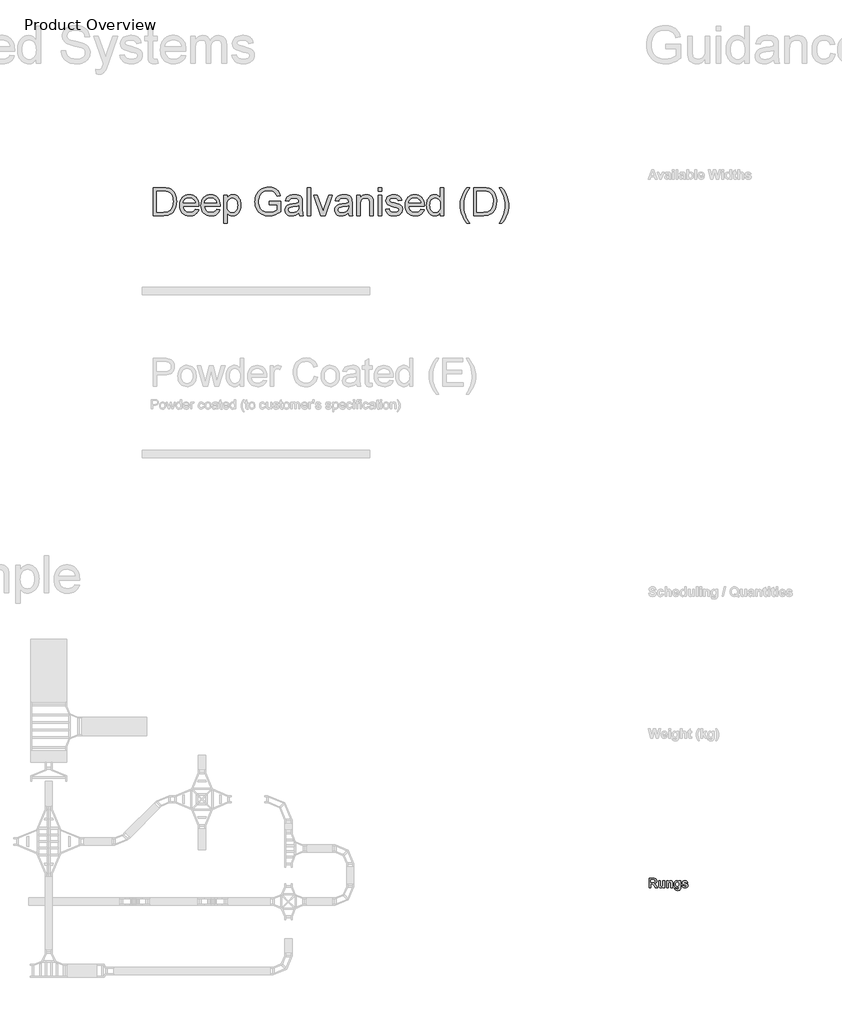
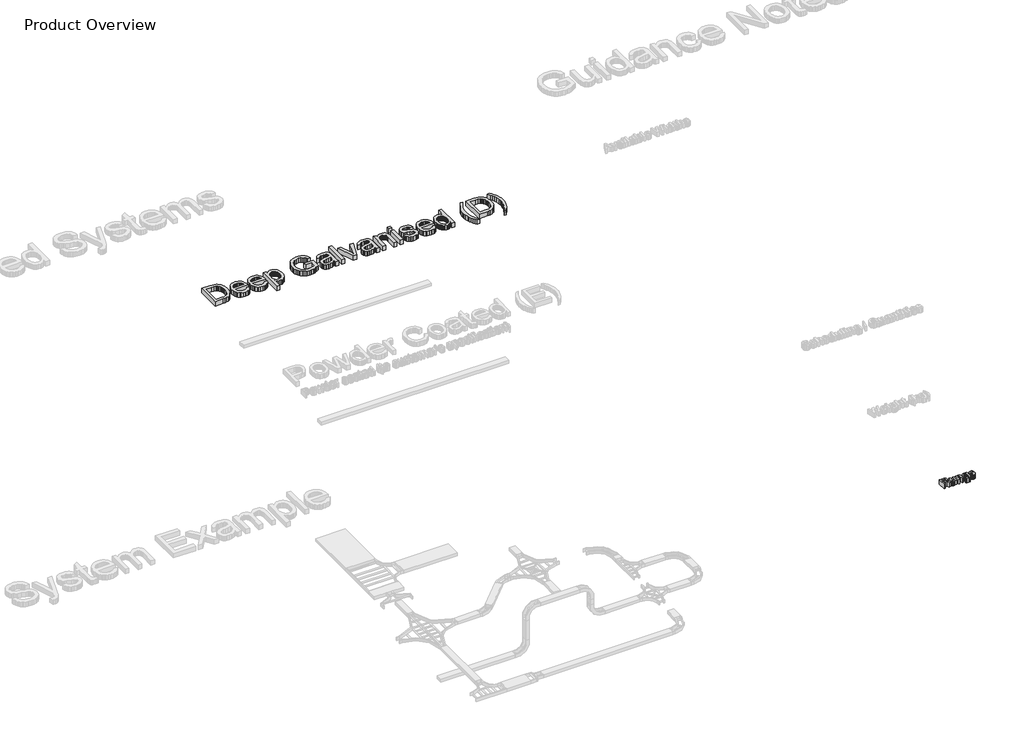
# One storey, part 8 of 12: 2 proxies.
"""IFC4 building model written with IfcOpenShell, lengths in millimetres."""

from ifc_helpers import new_model, si_unit, origin, origin_with_axes, place, context, project, spatial, polyline, outline, extrude, element, save

model = new_model("IFC4")

# Units and contexts
model_context = context("Model", 3, world=origin())
ifc_project = project(units=[si_unit("LENGTHUNIT", "METRE", prefix="MILLI")], contexts=[model_context])

# Site, building, storey
site = spatial("IfcSite", under=ifc_project)
building = spatial("IfcBuilding", under=site)
storey = spatial("IfcBuildingStorey", under=building, Name="Product Overview", Elevation=0.0)

# Proxies
placement = place(None, origin())
element("IfcBuildingElementProxy", 1, Name="250.0 BOLD", ObjectType="250.0 BOLD", at=placement, inside=storey, context=model_context, shape_type="SweptSolid", body=[
    extrude(outline(polyline([(8227.1392742, -30573.8362158), (8227.1392742, -30323.8362158), (8332.2980044, -30323.8362158), (8366.5551968, -30325.525824), (8389.9616949, -30330.5946484), (8406.1447306, -30339.9882496), (8418.7315361, -30354.652188), (8426.823054, -30373.2068755), (8429.5202266, -30394.2727238), (8425.6217271, -30420.0818755), (8413.9262286, -30440.9617119), (8394.4647331, -30455.9666722), (8367.2682425, -30464.151196), (8392.2558417, -30484.9845293), (8418.7935401, -30525.3491127), (8449.3614965, -30573.8362158), (8393.7439369, -30573.8362158), (8357.5336195, -30516.7305611), (8329.1048, -30482.8453924), (8312.8597603, -30473.2657793), (8285.6710203, -30470.6616127), (8274.7583218, -30470.6616127), (8274.7583218, -30573.8362158), (8227.1392742, -30573.8362158)]), holes=[polyline([(8274.7583218, -30427.010819), (8314.0068338, -30427.010819), (8361.6568834, -30424.1276345), (8376.5378357, -30414.2069996), (8381.901179, -30396.6288746), (8380.1340659, -30385.9254395), (8374.8327266, -30377.5006503), (8366.307181, -30371.5560199), (8354.8674488, -30368.2930611), (8316.1769726, -30367.4870095), (8274.7583218, -30367.4870095), (8274.7583218, -30427.010819)])]), origin_with_axes(), (0.0, 0.0, 1.0), 150.0),
    extrude(outline(polyline([(8592.2186393, -30573.8362158), (8592.2186393, -30547.0505015), (8581.2516874, -30559.8465705), (8567.3240461, -30569.588944), (8551.4742817, -30575.7505883), (8534.7409607, -30577.8044698), (8518.2014022, -30575.7893408), (8503.4289568, -30569.7439539), (8491.4621909, -30560.0480834), (8483.3396711, -30547.0815035), (8478.6893734, -30529.6816399), (8477.1392742, -30506.6859182), (8477.1392742, -30391.2965333), (8524.7583218, -30391.2965333), (8524.7583218, -30475.6839341), (8527.3314865, -30523.1479718), (8536.7560897, -30536.9748567), (8554.1482028, -30542.0901841), (8565.5491825, -30540.385075), (8575.6945818, -30535.2697476), (8583.7085947, -30527.620008), (8588.7154151, -30518.3116623), (8592.2186393, -30468.7394896), (8592.2186393, -30391.2965333), (8639.8376869, -30391.2965333), (8639.8376869, -30573.8362158), (8592.2186393, -30573.8362158)])), origin_with_axes(), (0.0, 0.0, 1.0), 150.0),
    extrude(outline(polyline([(8850.1551472, -30573.8362158), (8802.5360996, -30573.8362158), (8802.5360996, -30480.0242119), (8799.5599092, -30441.4577436), (8789.8252861, -30427.8788746), (8773.6422504, -30423.042565), (8762.1172628, -30424.7709256), (8751.8478556, -30429.9560075), (8743.7253357, -30438.0010224), (8738.6410103, -30448.3091821), (8735.0757822, -30490.5648865), (8735.0757822, -30573.8362158), (8687.4567345, -30573.8362158), (8687.4567345, -30391.2965333), (8735.0757822, -30391.2965333), (8735.0757822, -30417.5862158), (8747.1239282, -30404.3483686), (8760.6369181, -30394.8927634), (8775.6147517, -30389.2194003), (8792.057429, -30387.3282793), (8819.7111988, -30393.0946484), (8838.6844131, -30407.7895888), (8847.6439865, -30428.0338845), (8850.1551472, -30460.4929619), (8850.1551472, -30573.8362158)])), origin_with_axes(), (0.0, 0.0, 1.0), 150.0),
    extrude(outline(polyline([(8893.8059409, -30585.7409777), (8949.3614965, -30593.6774857), (8955.2518734, -30605.0862158), (8975.4031631, -30609.5505015), (8990.8111492, -30608.1399113), (9001.8168536, -30603.9081404), (9010.745425, -30591.6933587), (9012.8535599, -30569.495938), (9012.8535599, -30542.8962357), (9000.572899, -30556.432477), (8987.292424, -30566.1012208), (8973.0121351, -30571.9024671), (8957.7320322, -30573.8362158), (8941.041339, -30571.8947166), (8926.1875133, -30566.0702188), (8913.1705552, -30556.3627225), (8901.9904647, -30542.7722277), (8889.8996909, -30515.2114638), (8885.869433, -30481.636315), (8891.1475208, -30441.1709753), (8897.7451305, -30425.0015029), (8906.9817842, -30411.5408289), (8918.1831885, -30400.9478385), (8930.6750505, -30393.3814167), (8944.4573701, -30388.8415637), (8959.5301472, -30387.3282793), (8975.0001373, -30389.1225191), (8989.0440361, -30394.5052386), (9001.6618437, -30403.4764378), (9012.8535599, -30416.0361166), (9012.8535599, -30391.2965333), (9060.4726076, -30391.2965333), (9060.4726076, -30553.4369103), (9059.1782747, -30581.3464465), (9055.2952762, -30601.2109678), (9049.0793784, -30615.3401221), (9040.7863476, -30626.0435571), (9029.8891502, -30634.0653205), (9015.8607524, -30640.1494599), (8976.3952266, -30645.2647873), (8937.8752613, -30641.4515432), (8912.4691353, -30630.0118111), (8898.3322306, -30612.7127039), (8893.619929, -30591.3213349), (8893.8059409, -30585.7409777)]), holes=[polyline([(8933.4884806, -30479.8382), (8936.2399067, -30506.0348765), (8944.4941849, -30524.1090333), (8956.7942221, -30534.6187059), (8971.682925, -30538.1219301), (8987.6411964, -30534.5257), (9000.9177961, -30523.7370095), (9009.869619, -30505.8953676), (9012.8535599, -30481.1402833), (9009.9936269, -30455.4318879), (9001.4138278, -30437.3344797), (8988.4627489, -30426.6155437), (8972.4889766, -30423.042565), (8956.995735, -30426.5457892), (8944.4941849, -30437.0554619), (8936.2399067, -30454.7575948), (8933.4884806, -30479.8382)])]), origin_with_axes(), (0.0, 0.0, 1.0), 150.0),
    extrude(outline(polyline([(9088.2503853, -30522.2489142), (9135.869433, -30514.3124063), (9140.4034731, -30526.3101742), (9148.0532127, -30535.0217317), (9159.0821686, -30540.323071), (9173.7538576, -30542.0901841), (9189.6733764, -30540.4005759), (9201.0976076, -30535.3317515), (9205.7479052, -30529.8133984), (9207.2980044, -30522.682942), (9204.0117941, -30513.7543706), (9188.448798, -30507.4919698), (9142.4573546, -30495.30819), (9117.0822306, -30484.1784777), (9101.4107276, -30466.5538498), (9096.1868933, -30443.1938547), (9100.66668, -30421.4459628), (9114.1060401, -30403.4493111), (9136.9700034, -30391.3585373), (9169.7235996, -30387.3282793), (9200.9580986, -30390.5834877), (9222.9850084, -30400.3491127), (9237.6954498, -30416.5011464), (9246.9805441, -30438.9155809), (9199.3614965, -30446.8520888), (9190.1849092, -30429.1809579), (9182.0003853, -30424.5771632), (9170.963679, -30423.042565), (9157.4003109, -30424.3446484), (9148.3322306, -30428.2508984), (9143.8059409, -30437.9235174), (9148.3322306, -30446.542069), (9190.463927, -30459.8729222), (9221.0706358, -30469.4990382), (9240.7801472, -30481.1402833), (9251.3828258, -30496.5017664), (9254.917052, -30516.916573), (9249.7939741, -30540.1448096), (9234.4247405, -30559.854321), (9209.010864, -30573.3169326), (9173.7538576, -30577.8044698), (9141.1010178, -30574.0687307), (9116.0591651, -30562.8615134), (9098.4887906, -30545.2368855), (9088.2503853, -30522.2489142)])), origin_with_axes(), (0.0, 0.0, 1.0), 150.0),
])
element("IfcBuildingElementProxy", 2, Name="750mm", ObjectType="750mm", at=placement, inside=storey, context=model_context, shape_type="SweptSolid", body=[
    extrude(outline(polyline([(-4836.3293405, -12853.8362158), (-4836.3293405, -12119.2907613), (-4582.9326786, -12119.2907613), (-4507.2095784, -12121.935914), (-4451.8407041, -12129.8713721), (-4421.4214481, -12138.6026176), (-4393.28868, -12150.270431), (-4367.4423998, -12164.8748122), (-4343.8826075, -12182.4157613), (-4316.6577096, -12208.6879559), (-4293.0867091, -12238.3674658), (-4273.1696059, -12271.4542911), (-4256.9064001, -12307.9484317), (-4244.2746752, -12347.5136395), (-4235.2520145, -12389.8136661), (-4229.8384181, -12434.8485116), (-4228.0338859, -12482.6181761), (-4232.9206935, -12561.4571764), (-4247.5811161, -12630.8363934), (-4269.9079982, -12689.9039981), (-4297.7941842, -12737.8081618), (-4329.8946814, -12775.6248788), (-4364.8644967, -12804.4301434), (-4405.0125347, -12825.7931139), (-4452.6476999, -12841.2829488), (-4507.8596583, -12850.6978991), (-4570.7380763, -12853.8362158), (-4836.3293405, -12853.8362158)]), holes=[polyline([(-4744.5111587, -12762.018034), (-4582.0360166, -12762.018034), (-4514.8312048, -12758.7003849), (-4463.855974, -12748.7474374), (-4425.3891771, -12732.7420219), (-4395.7096672, -12711.2669687), (-4378.7683608, -12692.8573784), (-4363.810919, -12671.5224285), (-4339.8476288, -12620.0764502), (-4324.850958, -12556.7048682), (-4319.8520678, -12481.183517), (-4322.3010757, -12427.8769651), (-4329.6480994, -12381.1160454), (-4341.8931389, -12340.9007577), (-4359.0361942, -12307.2311022), (-4379.6874393, -12279.3449161), (-4402.4570482, -12256.4800368), (-4427.345021, -12238.6364644), (-4454.3513575, -12225.8141988), (-4507.1647453, -12214.785257), (-4584.54667, -12211.1089431), (-4744.5111587, -12211.1089431), (-4744.5111587, -12762.018034)])]), origin_with_axes(), (0.0, 0.0, 1.0), 150.0),
    extrude(outline(polyline([(-3735.587153, -12693.1543976), (-3645.562295, -12704.6316704), (-3659.3652846, -12740.6886883), (-3677.9990404, -12772.4641455), (-3701.4635623, -12799.958042), (-3729.7588504, -12823.1703778), (-3762.5934895, -12841.6079887), (-3799.6760646, -12854.7777109), (-3841.0065755, -12862.6795441), (-3886.5850223, -12865.3134886), (-3943.5566798, -12860.7685334), (-3994.3189534, -12847.1336679), (-4038.8718432, -12824.4088921), (-4077.215349, -12792.5942059), (-4108.0493112, -12752.575063), (-4130.0735699, -12705.2369172), (-4143.2881251, -12650.5797683), (-4147.6929769, -12588.6036164), (-4143.243292, -12524.5259131), (-4129.8942375, -12468.0474197), (-4107.6458133, -12419.1681361), (-4076.4980195, -12377.8880624), (-4038.2553881, -12345.0926523), (-3994.7224513, -12321.6673593), (-3945.8992091, -12307.6121835), (-3891.7856615, -12302.9271249), (-3839.4150006, -12307.6009752), (-3792.0544381, -12321.6225262), (-3749.7039743, -12344.9917778), (-3712.363609, -12377.70873), (-3681.8827074, -12418.8991375), (-3660.1106349, -12467.6887549), (-3647.0473914, -12524.0775821), (-3642.6929769, -12588.0656192), (-3643.230974, -12612.8134886), (-4055.874795, -12612.8134886), (-4050.556469, -12649.4533367), (-4039.9814623, -12681.5426256), (-4024.1497751, -12709.0813552), (-4003.0614072, -12732.0695255), (-3977.8820194, -12750.1933048), (-3949.777272, -12763.1388614), (-3918.747165, -12770.9061954), (-3884.7916984, -12773.4953067), (-3835.9236232, -12768.6981654), (-3794.7668405, -12754.3067414), (-3777.0801839, -12743.2890079), (-3761.3213504, -12729.4243728), (-3747.4903401, -12712.712836), (-3735.587153, -12693.1543976)]), holes=[polyline([(-4055.874795, -12520.9953067), (-3734.5111587, -12520.9953067), (-3739.2298421, -12495.0145273), (-3746.9299264, -12472.4858962), (-3757.6114117, -12453.4094136), (-3771.2742979, -12437.7850795), (-3796.3135823, -12418.9551789), (-3824.8050152, -12405.5052499), (-3856.7485965, -12397.4352925), (-3892.1443263, -12394.7453067), (-3924.42976, -12396.8916912), (-3954.0364161, -12403.3308447), (-3980.9642948, -12414.0627672), (-4005.2133959, -12429.0874587), (-4025.5620176, -12447.7100062), (-4040.788458, -12469.2354967), (-4050.8927172, -12493.6639302), (-4055.874795, -12520.9953067)])]), origin_with_axes(), (0.0, 0.0, 1.0), 150.0),
    extrude(outline(polyline([(-3173.2007894, -12693.1543976), (-3083.1759314, -12704.6316704), (-3096.978921, -12740.6886883), (-3115.6126768, -12772.4641455), (-3139.0771987, -12799.958042), (-3167.3724868, -12823.1703778), (-3200.2071259, -12841.6079887), (-3237.2897009, -12854.7777109), (-3278.6202118, -12862.6795441), (-3324.1986587, -12865.3134886), (-3381.1703162, -12860.7685334), (-3431.9325898, -12847.1336679), (-3476.4854795, -12824.4088921), (-3514.8289854, -12792.5942059), (-3545.6629476, -12752.575063), (-3567.6872063, -12705.2369172), (-3580.9017615, -12650.5797683), (-3585.3066132, -12588.6036164), (-3580.8569284, -12524.5259131), (-3567.5078739, -12468.0474197), (-3545.2594497, -12419.1681361), (-3514.1116558, -12377.8880624), (-3475.8690244, -12345.0926523), (-3432.3360876, -12321.6673593), (-3383.5128455, -12307.6121835), (-3329.3992979, -12302.9271249), (-3277.0286369, -12307.6009752), (-3229.6680745, -12321.6225262), (-3187.3176106, -12344.9917778), (-3149.9772453, -12377.70873), (-3119.4963438, -12418.8991375), (-3097.7242712, -12467.6887549), (-3084.6610277, -12524.0775821), (-3080.3066132, -12588.0656192), (-3080.8446104, -12612.8134886), (-3493.4884314, -12612.8134886), (-3488.1701053, -12649.4533367), (-3477.5950987, -12681.5426256), (-3461.7634114, -12709.0813552), (-3440.6750436, -12732.0695255), (-3415.4956557, -12750.1933048), (-3387.3909083, -12763.1388614), (-3356.3608013, -12770.9061954), (-3322.4053348, -12773.4953067), (-3273.5372595, -12768.6981654), (-3232.3804769, -12754.3067414), (-3214.6938202, -12743.2890079), (-3198.9349868, -12729.4243728), (-3185.1039765, -12712.712836), (-3173.2007894, -12693.1543976)]), holes=[polyline([(-3493.4884314, -12520.9953067), (-3172.124795, -12520.9953067), (-3176.8434784, -12495.0145273), (-3184.5435628, -12472.4858962), (-3195.2250481, -12453.4094136), (-3208.8879342, -12437.7850795), (-3233.9272187, -12418.9551789), (-3262.4186516, -12405.5052499), (-3294.3622329, -12397.4352925), (-3329.7579626, -12394.7453067), (-3362.0433963, -12396.8916912), (-3391.6500525, -12403.3308447), (-3418.5779311, -12414.0627672), (-3442.8270322, -12429.0874587), (-3463.175654, -12447.7100062), (-3478.4020944, -12469.2354967), (-3488.5063535, -12493.6639302), (-3493.4884314, -12520.9953067)])]), origin_with_axes(), (0.0, 0.0, 1.0), 150.0),
    extrude(outline(polyline([(-2988.4884314, -13060.4271249), (-2988.4884314, -12314.4043976), (-2896.6702496, -12314.4043976), (-2896.6702496, -12404.4292556), (-2866.7217411, -12360.0220734), (-2833.1865848, -12328.3026576), (-2814.5808497, -12317.200862), (-2794.0921246, -12309.2710081), (-2771.7204094, -12304.5130957), (-2747.4657041, -12302.9271249), (-2715.4436649, -12305.1463632), (-2685.3718653, -12311.804078), (-2657.2503055, -12322.9002694), (-2631.0789854, -12338.4349374), (-2607.4295269, -12358.0045841), (-2586.8735521, -12381.2057116), (-2569.411061, -12408.0383199), (-2555.0420536, -12438.502409), (-2543.8225711, -12471.5556095), (-2535.8086551, -12506.1555518), (-2531.0003055, -12542.3022359), (-2529.3975223, -12579.9956618), (-2531.2076586, -12620.2950115), (-2536.6380674, -12658.5208305), (-2545.6887488, -12694.6731188), (-2558.3597027, -12728.7518763), (-2574.4772009, -12759.8660454), (-2593.8675152, -12787.1245681), (-2616.5306455, -12810.5274445), (-2642.4665919, -12830.0746746), (-2670.4032152, -12845.4916557), (-2699.0683764, -12856.5037851), (-2728.4620753, -12863.1110627), (-2758.5843121, -12865.3134886), (-2800.7946725, -12859.4179364), (-2838.4768902, -12841.7312797), (-2870.7343032, -12815.0331707), (-2896.6702496, -12782.1032613), (-2896.6702496, -13060.4271249), (-2988.4884314, -13060.4271249)]), holes=[polyline([(-2896.6702496, -12588.424284), (-2894.1876169, -12632.6745503), (-2886.7397187, -12670.7378493), (-2874.3265551, -12702.614181), (-2856.948126, -12728.3035454), (-2836.0278823, -12748.074941), (-2812.9892748, -12762.1973664), (-2787.8323035, -12770.6708216), (-2760.5569683, -12773.4953067), (-2732.8893436, -12770.5699472), (-2707.272833, -12761.7938685), (-2683.7074366, -12747.1670708), (-2662.1931544, -12726.6895539), (-2644.2655199, -12700.0699028), (-2631.4600667, -12667.0167023), (-2623.7767948, -12627.5299525), (-2621.2157041, -12581.6096533), (-2623.7151493, -12537.7404683), (-2631.2134847, -12499.744419), (-2643.7107103, -12467.6215052), (-2661.2068263, -12441.3717272), (-2682.1775072, -12420.9726682), (-2705.0984278, -12406.4019118), (-2729.9695882, -12397.659458), (-2756.7909882, -12394.7453067), (-2783.5283262, -12397.8443945), (-2808.6852975, -12407.1416579), (-2832.2619022, -12422.637097), (-2854.2581402, -12444.3307116), (-2872.8134381, -12471.9310867), (-2886.0672222, -12505.1468071), (-2894.0194927, -12543.9778729), (-2896.6702496, -12588.424284)])]), origin_with_axes(), (0.0, 0.0, 1.0), 150.0),
    extrude(outline(polyline([(-1783.374795, -12566.9043976), (-1783.374795, -12475.0862158), (-1484.9657041, -12475.0862158), (-1484.9657041, -12749.6440993), (-1520.93866, -12776.6448318), (-1557.4832379, -12800.081333), (-1594.5994377, -12819.9536031), (-1632.2872595, -12836.261642), (-1670.5018702, -12848.9718248), (-1709.1984367, -12858.0505269), (-1748.376959, -12863.4977481), (-1788.0374371, -12865.3134886), (-1840.7779711, -12862.427358), (-1891.0414765, -12853.7689662), (-1938.8279533, -12839.3383132), (-1984.1374016, -12819.1353991), (-2025.5071414, -12793.4628471), (-2061.4744932, -12762.6232808), (-2092.0394568, -12726.6167001), (-2117.2020322, -12685.443105), (-2136.855741, -12640.4194678), (-2150.8941043, -12592.8627606), (-2159.3171224, -12542.7729834), (-2162.124795, -12490.1501363), (-2159.3283306, -12437.521685), (-2150.9389374, -12386.6977659), (-2136.9566154, -12337.6783789), (-2117.3813646, -12290.4635241), (-2092.5606415, -12247.1267321), (-2062.8419026, -12209.7415337), (-2028.2251479, -12178.3079288), (-1988.7103774, -12152.8259175), (-1945.1550241, -12133.1329799), (-1898.4165209, -12119.0665958), (-1848.4948678, -12110.6267654), (-1795.3900649, -12107.8134886), (-1756.6206446, -12109.4442924), (-1719.756631, -12114.3367041), (-1684.7980239, -12122.4907235), (-1651.7448234, -12133.9063508), (-1621.3760046, -12148.2305251), (-1594.4705425, -12165.110186), (-1571.0284372, -12184.5453334), (-1551.0496885, -12206.5359672), (-1533.8954249, -12231.5808558), (-1518.9267748, -12260.1787673), (-1506.1437381, -12292.3297017), (-1495.5463149, -12328.033659), (-1580.1912013, -12351.8848664), (-1599.0883515, -12303.4875386), (-1622.0653135, -12266.9709815), (-1652.462153, -12239.4434601), (-1693.6189357, -12218.01324), (-1742.6887599, -12204.2270628), (-1796.824724, -12199.6316704), (-1860.196306, -12204.5857275), (-1914.3771033, -12219.4478991), (-1959.1653668, -12242.3576114), (-1994.3593476, -12271.4542911), (-2021.3712883, -12305.2360294), (-2041.6134314, -12342.2009175), (-2054.1666984, -12376.1619882), (-2063.1333178, -12411.5128849), (-2068.5132894, -12448.2536075), (-2070.3066132, -12486.3841562), (-2068.1490204, -12532.2316016), (-2061.6762421, -12574.1897758), (-2050.8882783, -12612.258679), (-2035.7851288, -12646.438311), (-2016.5629387, -12676.5997767), (-1993.4178526, -12702.614181), (-1966.3498705, -12724.4815239), (-1935.3589925, -12742.2018053), (-1901.89669, -12755.8927122), (-1867.4144346, -12765.6719314), (-1831.9122262, -12771.5394629), (-1795.3900649, -12773.4953067), (-1731.7943174, -12767.5997545), (-1669.7677283, -12749.9130979), (-1615.9007627, -12725.5463099), (-1576.7838859, -12699.6103636), (-1576.7838859, -12566.9043976), (-1783.374795, -12566.9043976)])), origin_with_axes(), (0.0, 0.0, 1.0), 150.0),
    extrude(outline(polyline([(-1002.9202496, -12784.9725795), (-1046.7894346, -12822.5875475), (-1091.9587794, -12847.2009175), (-1139.4594452, -12860.7853458), (-1190.3225933, -12865.3134886), (-1231.2047733, -12862.5898779), (-1267.0544381, -12854.4190461), (-1297.8715879, -12840.800993), (-1323.6562226, -12821.7357187), (-1344.0160526, -12798.4337167), (-1358.5587883, -12772.1054807), (-1367.2844297, -12742.7510107), (-1370.1929769, -12710.3703067), (-1365.7993334, -12672.3070077), (-1352.618403, -12637.7406903), (-1332.2865937, -12608.1508465), (-1306.4403135, -12585.0169687), (-1276.0658906, -12567.532061), (-1242.149653, -12554.8891278), (-1162.7054058, -12541.080534), (-1068.8249016, -12526.5546107), (-1003.4582467, -12509.518034), (-1002.9202496, -12489.074142), (-1004.5006162, -12466.8145095), (-1009.2417162, -12448.0966917), (-1017.1435495, -12432.9206885), (-1028.2061161, -12421.2864999), (-1047.3274318, -12409.6747279), (-1070.6182254, -12401.380605), (-1098.0784971, -12396.4041313), (-1129.7082467, -12394.7453067), (-1184.4046246, -12399.1613667), (-1205.5658462, -12404.6814418), (-1222.6024229, -12412.4095468), (-1236.6015573, -12422.9509286), (-1248.650452, -12436.9108341), (-1258.749107, -12454.2892631), (-1266.8975223, -12475.0862158), (-1358.7157041, -12463.6089431), (-1342.7775383, -12413.3958749), (-1318.9935805, -12373.9427499), (-1303.6046201, -12357.8812931), (-1285.1445926, -12343.7700759), (-1239.0113362, -12321.3983607), (-1182.5888842, -12307.5449339), (-1117.8723092, -12302.9271249), (-1055.800887, -12307.0069367), (-1006.5965635, -12319.2463721), (-969.4971761, -12337.6503582), (-943.7405621, -12360.2238224), (-926.6591523, -12388.132425), (-915.5853774, -12422.5418266), (-912.2228952, -12454.283659), (-911.1020678, -12502.8827357), (-911.1020678, -12617.1174658), (-909.9364072, -12716.6245237), (-906.4394257, -12776.6336235), (-899.5351288, -12816.0643319), (-888.1475223, -12853.8362158), (-979.9657041, -12853.8362158), (-994.6709598, -12821.9150511), (-1002.9202496, -12784.9725795)]), holes=[polyline([(-1002.9202496, -12601.3362158), (-1064.6105905, -12616.6243018), (-1151.0488007, -12629.4914005), (-1198.6839658, -12636.5301966), (-1230.0447169, -12644.3759886), (-1250.6006917, -12654.5531015), (-1265.821528, -12668.5858607), (-1275.2364783, -12685.3982719), (-1278.374795, -12703.9143408), (-1276.6655332, -12718.1824738), (-1271.5377478, -12731.2176966), (-1262.9914388, -12743.0200093), (-1251.0266061, -12753.5894118), (-1235.7553326, -12762.2982409), (-1217.2897009, -12768.518833), (-1170.7753632, -12773.4953067), (-1121.458957, -12768.0032524), (-1077.8811871, -12751.5270894), (-1042.552707, -12727.2499676), (-1017.98417, -12698.3550368), (-1007.0897276, -12668.5858607), (-1003.4582467, -12627.3394118), (-1002.9202496, -12601.3362158)])]), origin_with_axes(), (0.0, 0.0, 1.0), 150.0),
    extrude(outline(polyline([(-784.8520678, -12853.8362158), (-784.8520678, -12119.2907613), (-693.0338859, -12119.2907613), (-693.0338859, -12853.8362158), (-784.8520678, -12853.8362158)])), origin_with_axes(), (0.0, 0.0, 1.0), 150.0),
    extrude(outline(polyline([(-422.9593121, -12853.8362158), (-612.6929769, -12314.4043976), (-515.4948234, -12314.4043976), (-400.5427638, -12637.5613579), (-365.9316132, -12746.236784), (-332.0377922, -12643.658659), (-216.368403, -12314.4043976), (-119.1702496, -12314.4043976), (-306.5725933, -12853.8362158), (-422.9593121, -12853.8362158)])), origin_with_axes(), (0.0, 0.0, 1.0), 150.0),
    extrude(outline(polyline([(305.4888413, -12784.9725795), (261.6196563, -12822.5875475), (216.4503115, -12847.2009175), (168.9496457, -12860.7853458), (118.0864976, -12865.3134886), (77.2043176, -12862.5898779), (41.3546528, -12854.4190461), (10.537503, -12840.800993), (-15.2471317, -12821.7357187), (-35.6069617, -12798.4337167), (-50.1496974, -12772.1054807), (-58.8753388, -12742.7510107), (-61.7838859, -12710.3703067), (-57.3902425, -12672.3070077), (-44.2093121, -12637.7406903), (-23.8775028, -12608.1508465), (1.9687774, -12585.0169687), (32.3432003, -12567.532061), (66.2594379, -12554.8891278), (145.7036851, -12541.080534), (239.5841893, -12526.5546107), (304.9508442, -12509.518034), (305.4888413, -12489.074142), (303.9084747, -12466.8145095), (299.1673747, -12448.0966917), (291.2655414, -12432.9206885), (280.2029749, -12421.2864999), (261.0816592, -12409.6747279), (237.7908655, -12401.380605), (210.3305938, -12396.4041313), (178.7008442, -12394.7453067), (124.0044663, -12399.1613667), (102.8432447, -12404.6814418), (85.806668, -12412.4095468), (71.8075336, -12422.9509286), (59.7586389, -12436.9108341), (49.6599839, -12454.2892631), (41.5115686, -12475.0862158), (-50.3066132, -12463.6089431), (-34.3684474, -12413.3958749), (-10.5844896, -12373.9427499), (4.8044708, -12357.8812931), (23.2644983, -12343.7700759), (69.3977547, -12321.3983607), (125.8202067, -12307.5449339), (190.5367817, -12302.9271249), (252.6082039, -12307.0069367), (301.8125274, -12319.2463721), (338.9119148, -12337.6503582), (364.6685288, -12360.2238224), (381.7499386, -12388.132425), (392.8237135, -12422.5418266), (396.1861957, -12454.283659), (397.3070231, -12502.8827357), (397.3070231, -12617.1174658), (398.4726837, -12716.6245237), (401.9696652, -12776.6336235), (408.8739621, -12816.0643319), (420.2615686, -12853.8362158), (328.4433868, -12853.8362158), (313.7381311, -12821.9150511), (305.4888413, -12784.9725795)]), holes=[polyline([(305.4888413, -12601.3362158), (243.7985004, -12616.6243018), (157.3602902, -12629.4914005), (109.7251251, -12636.5301966), (78.364374, -12644.3759886), (57.8083992, -12654.5531015), (42.5875629, -12668.5858607), (33.1726126, -12685.3982719), (30.0342959, -12703.9143408), (31.7435577, -12718.1824738), (36.8713431, -12731.2176966), (45.4176521, -12743.0200093), (57.3824848, -12753.5894118), (72.6537583, -12762.2982409), (91.11939, -12768.518833), (137.6337277, -12773.4953067), (186.9501339, -12768.0032524), (230.5279038, -12751.5270894), (265.8563839, -12727.2499676), (290.4249209, -12698.3550368), (301.3193633, -12668.5858607), (304.9508442, -12627.3394118), (305.4888413, -12601.3362158)])]), origin_with_axes(), (0.0, 0.0, 1.0), 150.0),
    extrude(outline(polyline([(523.5570231, -12853.8362158), (523.5570231, -12314.4043976), (615.375205, -12314.4043976), (615.375205, -12389.7239999), (647.2739532, -12351.7503671), (685.5838342, -12324.6263437), (730.3048481, -12308.3519296), (781.4369947, -12302.9271249), (826.6960057, -12307.2983518), (868.1442035, -12320.4120326), (902.710521, -12340.6317591), (927.323891, -12366.3211235), (944.0242195, -12397.412876), (954.8514124, -12433.839767), (958.4828932, -12468.675083), (959.6933868, -12522.6092982), (959.6933868, -12853.8362158), (867.875205, -12853.8362158), (867.875205, -12534.9832329), (865.2300523, -12487.5049836), (857.2945942, -12453.7456618), (842.6565881, -12429.5582062), (819.9037916, -12410.7955553), (790.7398623, -12398.7578689), (756.8684578, -12394.7453067), (728.9878759, -12396.9981698), (703.0911584, -12403.7567591), (679.1783056, -12415.0210747), (657.2493172, -12430.7911164), (638.9293931, -12452.8602082), (625.843733, -12483.0216739), (617.992337, -12521.2755136), (615.375205, -12567.6217272), (615.375205, -12853.8362158), (523.5570231, -12853.8362158)])), origin_with_axes(), (0.0, 0.0, 1.0), 150.0),
    extrude(outline(polyline([(1085.9433868, -12853.8362158), (1085.9433868, -12314.4043976), (1177.7615686, -12314.4043976), (1177.7615686, -12853.8362158), (1085.9433868, -12853.8362158)])), origin_with_axes(), (0.0, 0.0, 1.0), 150.0),
    extrude(outline(polyline([(1085.9433868, -12211.1089431), (1085.9433868, -12119.2907613), (1177.7615686, -12119.2907613), (1177.7615686, -12211.1089431), (1085.9433868, -12211.1089431)])), origin_with_axes(), (0.0, 0.0, 1.0), 150.0),
    extrude(outline(polyline([(1281.0570231, -12693.1543976), (1372.875205, -12681.6771249), (1378.4233007, -12702.614181), (1387.3562952, -12720.9509175), (1399.6741885, -12736.6873344), (1415.3769805, -12749.8234317), (1434.5095045, -12760.179877), (1457.1165935, -12767.577338), (1483.1982474, -12772.0158145), (1512.7544663, -12773.4953067), (1567.7198428, -12768.070502), (1589.0828133, -12761.2894962), (1606.365972, -12751.796088), (1619.7038182, -12740.4757311), (1629.2308513, -12728.2138792), (1634.9470711, -12715.0105322), (1636.8524777, -12700.8656903), (1634.9358628, -12688.4693391), (1629.1860182, -12677.4628138), (1619.6029438, -12667.8461146), (1606.1866396, -12659.6192414), (1571.7996545, -12647.9626363), (1511.678472, -12633.436713), (1427.8854145, -12609.2044243), (1373.4132021, -12588.5139502), (1338.4209702, -12565.9404861), (1313.0678541, -12536.0592272), (1297.6676854, -12500.7755802), (1292.5342959, -12461.9949516), (1296.6589408, -12426.4198895), (1309.0328754, -12393.5796462), (1328.5352724, -12364.7743817), (1354.0453044, -12341.3042556), (1379.3984205, -12326.5317503), (1412.4179962, -12314.1353991), (1450.5933779, -12305.7291935), (1491.4139124, -12302.9271249), (1551.1764301, -12307.4328511), (1603.1379891, -12320.9500297), (1644.9224351, -12342.1560844), (1661.1071829, -12355.1464742), (1674.1536141, -12369.7284388), (1693.5215118, -12405.7069989), (1705.7161141, -12452.1316704), (1613.8979322, -12463.6089431), (1609.5211012, -12448.2704199), (1602.3085768, -12434.7140123), (1592.260359, -12422.9397204), (1579.3764479, -12412.947544), (1563.600802, -12404.9840652), (1544.87738, -12399.295866), (1498.5872078, -12394.7453067), (1445.8634862, -12399.0941171), (1426.0920906, -12404.5301301), (1410.7143385, -12412.1405482), (1390.9429429, -12430.9704488), (1386.000094, -12441.4613934), (1384.3524777, -12452.6696675), (1387.0872966, -12466.792093), (1395.2917533, -12479.3901931), (1409.3245125, -12490.6433003), (1429.5442391, -12499.6547528), (1508.6298214, -12519.2019829), (1589.7553097, -12543.1876895), (1643.3981098, -12562.421088), (1678.9955885, -12583.0891455), (1705.9851126, -12611.3788295), (1715.9100394, -12628.4041979), (1722.9992728, -12647.379806), (1728.6706595, -12691.1817414), (1727.0062308, -12714.1587034), (1722.0129447, -12736.463169), (1713.6908011, -12758.0951381), (1702.0398001, -12779.0546107), (1687.2504824, -12798.5065705), (1669.5133886, -12815.616001), (1648.8285186, -12830.3829022), (1625.1958726, -12842.8072741), (1599.2599262, -12852.6537429), (1571.6651553, -12859.6869349), (1511.4991396, -12865.3134886), (1462.0818589, -12862.6010862), (1418.9187952, -12854.4638792), (1382.0099484, -12840.9018675), (1351.3553186, -12821.9150511), (1326.3160342, -12797.5930962), (1306.2532234, -12768.025669), (1291.1668864, -12733.2127694), (1281.0570231, -12693.1543976)])), origin_with_axes(), (0.0, 0.0, 1.0), 150.0),
    extrude(outline(polyline([(2209.6401197, -12693.1543976), (2299.6649777, -12704.6316704), (2285.8619881, -12740.6886883), (2267.2282323, -12772.4641455), (2243.7637104, -12799.958042), (2215.4684223, -12823.1703778), (2182.6337832, -12841.6079887), (2145.5512082, -12854.7777109), (2104.2206972, -12862.6795441), (2058.6422504, -12865.3134886), (2001.6705929, -12860.7685334), (1950.9083193, -12847.1336679), (1906.3554296, -12824.4088921), (1868.0119237, -12792.5942059), (1837.1779615, -12752.575063), (1815.1537028, -12705.2369172), (1801.9391476, -12650.5797683), (1797.5342959, -12588.6036164), (1801.9839807, -12524.5259131), (1815.3330352, -12468.0474197), (1837.5814594, -12419.1681361), (1868.7292533, -12377.8880624), (1906.9718847, -12345.0926523), (1950.5048214, -12321.6673593), (1999.3280636, -12307.6121835), (2053.4416112, -12302.9271249), (2105.8122722, -12307.6009752), (2153.1728346, -12321.6225262), (2195.5232985, -12344.9917778), (2232.8636638, -12377.70873), (2263.3445653, -12418.8991375), (2285.1166378, -12467.6887549), (2298.1798814, -12524.0775821), (2302.5342959, -12588.0656192), (2301.9962987, -12612.8134886), (1889.3524777, -12612.8134886), (1894.6708038, -12649.4533367), (1905.2458104, -12681.5426256), (1921.0774977, -12709.0813552), (1942.1658655, -12732.0695255), (1967.3452534, -12750.1933048), (1995.4500008, -12763.1388614), (2026.4801078, -12770.9061954), (2060.4355743, -12773.4953067), (2109.3036496, -12768.6981654), (2150.4604322, -12754.3067414), (2168.1470888, -12743.2890079), (2183.9059223, -12729.4243728), (2197.7369326, -12712.712836), (2209.6401197, -12693.1543976)]), holes=[polyline([(1889.3524777, -12520.9953067), (2210.7161141, -12520.9953067), (2205.9974306, -12495.0145273), (2198.2973463, -12472.4858962), (2187.615861, -12453.4094136), (2173.9529749, -12437.7850795), (2148.9136904, -12418.9551789), (2120.4222575, -12405.5052499), (2088.4786762, -12397.4352925), (2053.0829464, -12394.7453067), (2020.7975128, -12396.8916912), (1991.1908566, -12403.3308447), (1964.262978, -12414.0627672), (1940.0138768, -12429.0874587), (1919.6652551, -12447.7100062), (1904.4388147, -12469.2354967), (1894.3345556, -12493.6639302), (1889.3524777, -12520.9953067)])]), origin_with_axes(), (0.0, 0.0, 1.0), 150.0),
    extrude(outline(polyline([(2727.1933868, -12853.8362158), (2727.1933868, -12767.2186732), (2699.7219068, -12810.1351549), (2683.8089596, -12826.9952013), (2666.4445409, -12840.7897847), (2647.6286507, -12851.5189051), (2627.361289, -12859.1825626), (2605.6424557, -12863.7807571), (2582.472151, -12865.3134886), (2552.1649777, -12863.0942503), (2523.1131311, -12856.4365354), (2495.3166112, -12845.340344), (2468.775418, -12829.8056761), (2444.3189638, -12810.2976749), (2422.7766609, -12787.2814839), (2404.1485093, -12760.7571032), (2388.4345089, -12730.7245326), (2375.9596998, -12697.7553942), (2367.0491219, -12662.4213099), (2361.7027751, -12624.7222798), (2359.9206595, -12584.6583039), (2361.5626717, -12545.3284699), (2366.4887082, -12507.8592094), (2374.698769, -12472.2505225), (2386.1928541, -12438.502409), (2400.9653594, -12407.6011972), (2419.0106808, -12380.5332151), (2440.3288182, -12357.2984628), (2464.9197717, -12337.8969403), (2491.9149, -12322.597646), (2520.4455619, -12311.6695788), (2550.5117573, -12305.1127384), (2582.1134862, -12302.9271249), (2605.2249475, -12304.4906792), (2627.036249, -12309.1813419), (2647.5473907, -12316.9991131), (2666.7583726, -12327.9439928), (2700.4280281, -12356.7044243), (2727.1933868, -12392.9519829), (2727.1933868, -12119.2907613), (2819.0115686, -12119.2907613), (2819.0115686, -12853.8362158), (2727.1933868, -12853.8362158)]), holes=[polyline([(2451.7388413, -12584.2996391), (2454.3279527, -12628.8245082), (2462.0952866, -12667.3529506), (2475.0408433, -12699.8849663), (2493.1646226, -12726.4205553), (2514.8078, -12747.0157591), (2538.3115508, -12761.7266189), (2563.6758752, -12770.5531348), (2590.9007731, -12773.4953067), (2618.2545662, -12770.6876341), (2643.4675789, -12762.264616), (2666.5398112, -12748.2262527), (2687.4712632, -12728.572544), (2704.8496923, -12703.146574), (2717.2628559, -12671.7914271), (2724.7107541, -12634.5071032), (2727.1933868, -12591.2936022), (2724.665921, -12543.9162274), (2717.0835235, -12503.2862336), (2704.4461944, -12469.4036208), (2686.7539337, -12442.2683891), (2665.3629424, -12421.4770406), (2641.6294219, -12406.6260773), (2615.5533721, -12397.7154994), (2587.134793, -12394.7453067), (2559.371898, -12397.5978125), (2534.0075736, -12406.1553298), (2511.0418198, -12420.4178587), (2490.4746368, -12440.3853991), (2473.5277263, -12466.4950737), (2461.4227902, -12499.1840052), (2454.1598285, -12538.4521937), (2451.7388413, -12584.2996391)])]), origin_with_axes(), (0.0, 0.0, 1.0), 150.0),
    extrude(outline(polyline([(3427.3070231, -13060.4271249), (3390.2412605, -13012.4669198), (3356.1568989, -12960.5838188), (3325.0539381, -12904.7778218), (3296.9323783, -12845.0489289), (3273.6303763, -12782.7981743), (3256.9860892, -12719.4265922), (3246.9995169, -12654.9341828), (3243.6706595, -12589.3209459), (3246.1588964, -12531.6543754), (3253.623607, -12475.2207151), (3266.0647913, -12420.0199649), (3283.4824493, -12366.0521249), (3309.9563928, -12304.1600351), (3342.751803, -12242.4024445), (3381.8686798, -12180.7793533), (3427.3070231, -12119.2907613), (3496.1706595, -12119.2907613), (3442.1467781, -12206.5808003), (3410.2704464, -12264.7293266), (3380.9496013, -12333.7722954), (3358.6227192, -12405.6845823), (3341.2723108, -12497.5475972), (3335.4888413, -12589.8589431), (3337.9994947, -12648.7191948), (3345.531455, -12707.5682382), (3358.084722, -12766.4060733), (3375.6592959, -12825.2327002), (3398.2551766, -12884.0481188), (3425.8723641, -12942.8523291), (3458.5108584, -13001.6453311), (3496.1706595, -13060.4271249), (3427.3070231, -13060.4271249)])), origin_with_axes(), (0.0, 0.0, 1.0), 150.0),
    extrude(outline(polyline([(3599.4661141, -12853.8362158), (3599.4661141, -12119.2907613), (3852.862776, -12119.2907613), (3928.5858761, -12121.935914), (3983.9547504, -12129.8713721), (4014.3740065, -12138.6026176), (4042.5067746, -12150.270431), (4068.3530548, -12164.8748122), (4091.912847, -12182.4157613), (4119.1377449, -12208.6879559), (4142.7087454, -12238.3674658), (4162.6258486, -12271.4542911), (4178.8890544, -12307.9484317), (4191.5207794, -12347.5136395), (4200.5434401, -12389.8136661), (4205.9570365, -12434.8485116), (4207.7615686, -12482.6181761), (4202.8747611, -12561.4571764), (4188.2143385, -12630.8363934), (4165.8874564, -12689.9039981), (4138.0012703, -12737.8081618), (4105.9007731, -12775.6248788), (4070.9309578, -12804.4301434), (4030.7829198, -12825.7931139), (3983.1477547, -12841.2829488), (3927.9357962, -12850.6978991), (3865.0573783, -12853.8362158), (3599.4661141, -12853.8362158)]), holes=[polyline([(3691.2842959, -12762.018034), (3853.7594379, -12762.018034), (3920.9642497, -12758.7003849), (3971.9394805, -12748.7474374), (4010.4062774, -12732.7420219), (4040.0857874, -12711.2669687), (4057.0270937, -12692.8573784), (4071.9845356, -12671.5224285), (4095.9478257, -12620.0764502), (4110.9444965, -12556.7048682), (4115.9433868, -12481.183517), (4113.4943789, -12427.8769651), (4106.1473552, -12381.1160454), (4093.9023157, -12340.9007577), (4076.7592604, -12307.2311022), (4056.1080152, -12279.3449161), (4033.3384063, -12256.4800368), (4008.4504336, -12238.6364644), (3981.444097, -12225.8141988), (3928.6307092, -12214.785257), (3851.2487845, -12211.1089431), (3691.2842959, -12211.1089431), (3691.2842959, -12762.018034)])]), origin_with_axes(), (0.0, 0.0, 1.0), 150.0),
    extrude(outline(polyline([(4345.4888413, -13060.4271249), (4276.625205, -13060.4271249), (4314.2850061, -13001.6453311), (4346.9235004, -12942.8523291), (4374.5406879, -12884.0481188), (4397.1365686, -12825.2327002), (4414.7111425, -12766.4060733), (4427.2644095, -12707.5682382), (4434.7963697, -12648.7191948), (4437.3070231, -12589.8589431), (4431.5235537, -12498.2200937), (4414.1731453, -12407.2985738), (4392.2497611, -12335.2517876), (4363.0634152, -12266.1639857), (4331.0525842, -12207.3877961), (4276.625205, -12119.2907613), (4345.4888413, -12119.2907613), (4390.9271847, -12180.7793533), (4430.0440615, -12242.4024445), (4462.8394717, -12304.1600351), (4489.3134152, -12366.0521249), (4506.7310732, -12420.0199649), (4519.1722575, -12475.2207151), (4526.6369681, -12531.6543754), (4529.125205, -12589.3209459), (4525.7795351, -12654.9341828), (4515.7425256, -12719.4265922), (4499.0141765, -12782.7981743), (4475.5944876, -12845.0489289), (4447.3888657, -12904.7778218), (4416.3027174, -12960.5838188), (4382.3360426, -13012.4669198), (4345.4888413, -13060.4271249)])), origin_with_axes(), (0.0, 0.0, 1.0), 150.0),
])

save(model, "model.ifc")
